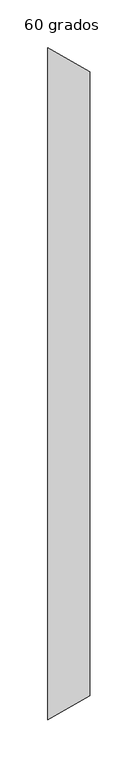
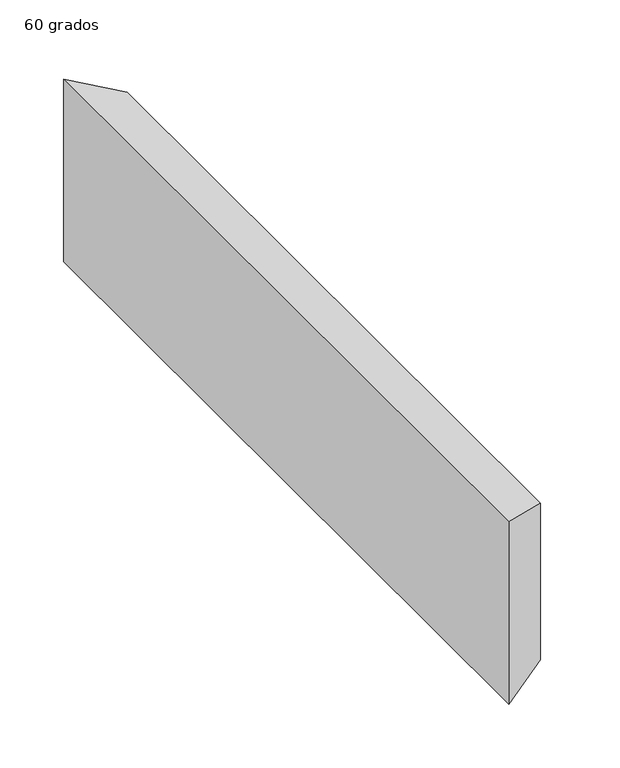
"""IFC4 building model written with IfcOpenShell, lengths in millimetres: duct fitting geometry, M_Transición rectangular - Ángulo : 60 grados."""

from ifc_helpers import new_model, si_unit, origin, place, context, project, spatial, faceted_brep, source, transform, mapped, element, save


def duct_fitting_60_grados_ed53c322(model_context):
    return source(origin(), model_context, "Body", "Brep", [
        faceted_brep([(43.3012702, -325.0, 75.0), (43.3012702, -325.0, -75.0), (43.3012702, 325.0, -75.0), (43.3012702, 325.0, 75.0), (0.0, -350.0, 87.5), (0.0, 350.0, 87.5), (0.0, 350.0, -87.5), (0.0, -350.0, -87.5)], [[[0, 1, 2, 3]], [[4, 5, 6, 7]], [[4, 7, 1, 0]], [[7, 6, 2, 1]], [[6, 5, 3, 2]], [[5, 4, 0, 3]]]),
    ])


if __name__ == "__main__":
    model = new_model("IFC4")
    model_context = context("Model", 3, world=origin())
    ifc_project = project(units=[si_unit("LENGTHUNIT", "METRE", prefix="MILLI")], contexts=[model_context])
    site = spatial("IfcSite", under=ifc_project)
    building = spatial("IfcBuilding", under=site)
    placement = place(None, origin())
    duct_fitting_60_grados_shape = duct_fitting_60_grados_ed53c322(model_context)
    element("IfcDuctFitting", 1, ObjectType="M_Transición rectangular - Ángulo : 60 grados", at=placement, inside=building, context=model_context, shape_type="MappedRepresentation", body=[
        mapped(duct_fitting_60_grados_shape, transform((0.0, 0.0, 0.0), x_axis=(1.0, 0.0, 0.0), y_axis=(0.0, 1.0, 0.0), z_axis=(0.0, 0.0, 1.0))),
    ])
    save(model, "model.ifc")
